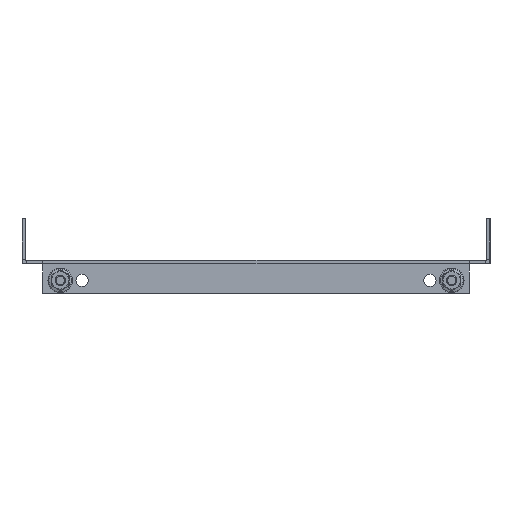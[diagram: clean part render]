
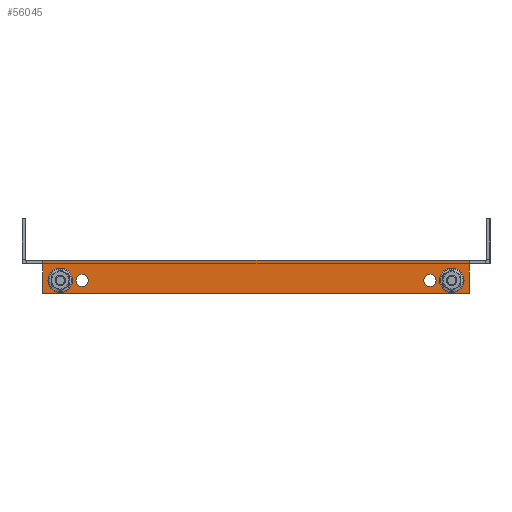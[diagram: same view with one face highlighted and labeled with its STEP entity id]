
A CAD part, left-side view. The second image highlights one B-rep face of the part: STEP entity #56045.
In plain terms, the highlighted planar face has unit normal (-1, 0, 0).
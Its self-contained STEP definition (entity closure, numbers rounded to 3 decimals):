
#37638 = VERTEX_POINT('',#37639);
#37639 = CARTESIAN_POINT('',(-450.,122.5,2.));
#37645 = EDGE_CURVE('',#37646,#37638,#37648,.T.);
#37646 = VERTEX_POINT('',#37647);
#37647 = CARTESIAN_POINT('',(-450.,-122.5,2.));
#37648 = LINE('',#37649,#37650);
#37649 = CARTESIAN_POINT('',(-450.,-132.5,2.));
#37650 = VECTOR('',#37651,1.);
#37651 = DIRECTION('',(-0.,1.,-0.));
#55924 = VERTEX_POINT('',#55925);
#55925 = CARTESIAN_POINT('',(-450.,-122.5,-0.6));
#55940 = EDGE_CURVE('',#55924,#37646,#55941,.T.);
#55941 = LINE('',#55942,#55943);
#55942 = CARTESIAN_POINT('',(-450.,-122.5,-0.6));
#55943 = VECTOR('',#55944,1.);
#55944 = DIRECTION('',(0.,-0.,1.));
#55964 = VERTEX_POINT('',#55965);
#55965 = CARTESIAN_POINT('',(-450.,122.5,-0.6));
#55971 = EDGE_CURVE('',#55964,#37638,#55972,.T.);
#55972 = LINE('',#55973,#55974);
#55973 = CARTESIAN_POINT('',(-450.,122.5,0.));
#55974 = VECTOR('',#55975,1.);
#55975 = DIRECTION('',(0.,0.,1.));
#55987 = EDGE_CURVE('',#55988,#55964,#55990,.T.);
#55988 = VERTEX_POINT('',#55989);
#55989 = CARTESIAN_POINT('',(-450.,122.5,-17.));
#55990 = LINE('',#55991,#55992);
#55991 = CARTESIAN_POINT('',(-450.,122.5,0.));
#55992 = VECTOR('',#55993,1.);
#55993 = DIRECTION('',(0.,-0.,1.));
#56027 = EDGE_CURVE('',#55924,#56028,#56030,.T.);
#56028 = VERTEX_POINT('',#56029);
#56029 = CARTESIAN_POINT('',(-450.,-122.5,-17.));
#56030 = LINE('',#56031,#56032);
#56031 = CARTESIAN_POINT('',(-450.,-122.5,-17.));
#56032 = VECTOR('',#56033,1.);
#56033 = DIRECTION('',(0.,0.,-1.));
#56045 = ADVANCED_FACE('',(#56046,#56066,#56086,#56097,#56108),#56121,
  .T.);
#56046 = FACE_BOUND('',#56047,.T.);
#56047 = EDGE_LOOP('',(#56048,#56059));
#56048 = ORIENTED_EDGE('',*,*,#56049,.F.);
#56049 = EDGE_CURVE('',#56050,#56052,#56054,.T.);
#56050 = VERTEX_POINT('',#56051);
#56051 = CARTESIAN_POINT('',(-450.,-112.5,-13.));
#56052 = VERTEX_POINT('',#56053);
#56053 = CARTESIAN_POINT('',(-450.,-112.5,-6.));
#56054 = CIRCLE('',#56055,3.5);
#56055 = AXIS2_PLACEMENT_3D('',#56056,#56057,#56058);
#56056 = CARTESIAN_POINT('',(-450.,-112.5,-9.5));
#56057 = DIRECTION('',(-1.,0.,0.));
#56058 = DIRECTION('',(0.,0.,-1.));
#56059 = ORIENTED_EDGE('',*,*,#56060,.F.);
#56060 = EDGE_CURVE('',#56052,#56050,#56061,.T.);
#56061 = CIRCLE('',#56062,3.5);
#56062 = AXIS2_PLACEMENT_3D('',#56063,#56064,#56065);
#56063 = CARTESIAN_POINT('',(-450.,-112.5,-9.5));
#56064 = DIRECTION('',(-1.,0.,0.));
#56065 = DIRECTION('',(0.,0.,-1.));
#56066 = FACE_BOUND('',#56067,.T.);
#56067 = EDGE_LOOP('',(#56068,#56079));
#56068 = ORIENTED_EDGE('',*,*,#56069,.F.);
#56069 = EDGE_CURVE('',#56070,#56072,#56074,.T.);
#56070 = VERTEX_POINT('',#56071);
#56071 = CARTESIAN_POINT('',(-450.,-100.,-13.));
#56072 = VERTEX_POINT('',#56073);
#56073 = CARTESIAN_POINT('',(-450.,-100.,-6.));
#56074 = CIRCLE('',#56075,3.5);
#56075 = AXIS2_PLACEMENT_3D('',#56076,#56077,#56078);
#56076 = CARTESIAN_POINT('',(-450.,-100.,-9.5));
#56077 = DIRECTION('',(-1.,0.,0.));
#56078 = DIRECTION('',(0.,0.,-1.));
#56079 = ORIENTED_EDGE('',*,*,#56080,.F.);
#56080 = EDGE_CURVE('',#56072,#56070,#56081,.T.);
#56081 = CIRCLE('',#56082,3.5);
#56082 = AXIS2_PLACEMENT_3D('',#56083,#56084,#56085);
#56083 = CARTESIAN_POINT('',(-450.,-100.,-9.5));
#56084 = DIRECTION('',(-1.,0.,0.));
#56085 = DIRECTION('',(0.,0.,-1.));
#56086 = FACE_BOUND('',#56087,.T.);
#56087 = EDGE_LOOP('',(#56088));
#56088 = ORIENTED_EDGE('',*,*,#56089,.F.);
#56089 = EDGE_CURVE('',#56090,#56090,#56092,.T.);
#56090 = VERTEX_POINT('',#56091);
#56091 = CARTESIAN_POINT('',(-450.,100.,-6.));
#56092 = CIRCLE('',#56093,3.5);
#56093 = AXIS2_PLACEMENT_3D('',#56094,#56095,#56096);
#56094 = CARTESIAN_POINT('',(-450.,100.,-9.5));
#56095 = DIRECTION('',(-1.,0.,0.));
#56096 = DIRECTION('',(0.,0.,1.));
#56097 = FACE_BOUND('',#56098,.T.);
#56098 = EDGE_LOOP('',(#56099));
#56099 = ORIENTED_EDGE('',*,*,#56100,.F.);
#56100 = EDGE_CURVE('',#56101,#56101,#56103,.T.);
#56101 = VERTEX_POINT('',#56102);
#56102 = CARTESIAN_POINT('',(-450.,112.5,-6.));
#56103 = CIRCLE('',#56104,3.5);
#56104 = AXIS2_PLACEMENT_3D('',#56105,#56106,#56107);
#56105 = CARTESIAN_POINT('',(-450.,112.5,-9.5));
#56106 = DIRECTION('',(-1.,0.,0.));
#56107 = DIRECTION('',(0.,0.,1.));
#56108 = FACE_BOUND('',#56109,.T.);
#56109 = EDGE_LOOP('',(#56110,#56111,#56112,#56113,#56114,#56115));
#56110 = ORIENTED_EDGE('',*,*,#56027,.F.);
#56111 = ORIENTED_EDGE('',*,*,#55940,.T.);
#56112 = ORIENTED_EDGE('',*,*,#37645,.T.);
#56113 = ORIENTED_EDGE('',*,*,#55971,.F.);
#56114 = ORIENTED_EDGE('',*,*,#55987,.F.);
#56115 = ORIENTED_EDGE('',*,*,#56116,.F.);
#56116 = EDGE_CURVE('',#56028,#55988,#56117,.T.);
#56117 = LINE('',#56118,#56119);
#56118 = CARTESIAN_POINT('',(-450.,122.5,-17.));
#56119 = VECTOR('',#56120,1.);
#56120 = DIRECTION('',(-0.,1.,-0.));
#56121 = PLANE('',#56122);
#56122 = AXIS2_PLACEMENT_3D('',#56123,#56124,#56125);
#56123 = CARTESIAN_POINT('',(-450.,122.5,0.));
#56124 = DIRECTION('',(-1.,0.,0.));
#56125 = DIRECTION('',(0.,0.,1.));
